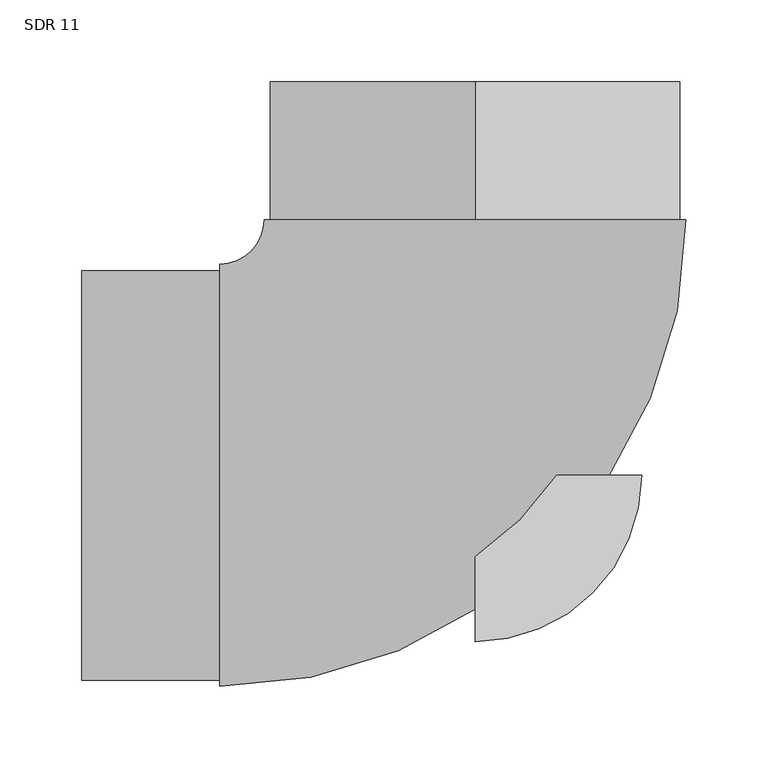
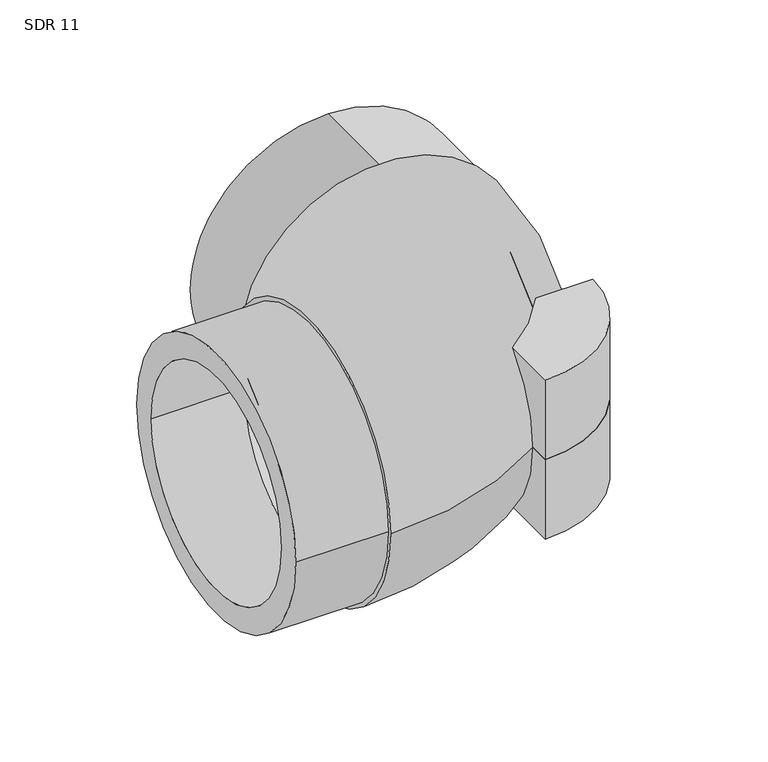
"""IFC4 building model written with IfcOpenShell, lengths in millimetres: pipe fitting geometry, Aquatherm - Elbow BW Molded : SDR 11."""

from ifc_helpers import new_model, si_unit, point, frame, frame_2d, origin, origin_with_axes, origin_2d, place, context, project, spatial, polyline, circle_curve, ellipse_curve, trimmed, segment, composite_curve, outline, extrude, source, transform, mapped, element, save
from ifc_brep_helpers import plane_surface, revolved_surface, advanced_brep


def sdr_11_d59b6b38(model_context):
    return source(origin(), model_context, "Body", "SolidModel", [
        extrude(outline(composite_curve([segment(polyline([(0.0, -101.6), (0.0, 0.0), (101.5999999, 0.0049065)]), True, "CONTINUOUS"), segment(trimmed(circle_curve(origin_2d(), 101.6), [point((101.5999999, 0.0049065))], [point((0.0, -101.6))], False, "CARTESIAN"), True, "CONTINUOUS")], self_intersect=False)), frame((0.0, 0.0, -76.2), z_axis=(0.0, 0.0, 1.0), x_axis=(1.0, 0.0, 0.0)), (0.0, 0.0, 1.0), 76.2),
        extrude(outline(composite_curve([segment(trimmed(circle_curve(origin_2d(), 101.6), [point((101.5999999, 0.0049065))], [point((0.0, -101.6))], False, "CARTESIAN"), True, "CONTINUOUS"), segment(polyline([(0.0, -101.6), (0.0, 0.0), (101.5999999, 0.0049065)]), True, "CONTINUOUS")], self_intersect=False)), origin_with_axes(), (0.0, 0.0, 1.0), 76.2),
        extrude(outline(composite_curve([segment(trimmed(circle_curve(frame_2d((0.0, -124.968)), 124.968), [point((0.0, -249.936))], [point((0.0, 0.0))], False, "CARTESIAN"), True, "CONTINUOUS"), segment(trimmed(circle_curve(frame_2d((0.0, -124.968)), 124.968), [point((0.0, 0.0))], [point((0.0, -249.936))], False, "CARTESIAN"), True, "CONTINUOUS")], self_intersect=False), holes=[composite_curve([segment(trimmed(circle_curve(frame_2d((0.0, -124.968)), 102.2465455), [point((0.0, -227.2145455))], [point((0.0, -22.7214545))], True, "CARTESIAN"), True, "CONTINUOUS"), segment(trimmed(circle_curve(frame_2d((0.0, -124.968)), 102.2465455), [point((0.0, -22.7214545))], [point((0.0, -227.2145455))], True, "CARTESIAN"), True, "CONTINUOUS")], self_intersect=False)]), frame((-0.0075345, 156.0194998, 124.968), z_axis=(-4.829227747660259e-05, 0.999999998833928, 0.0), x_axis=(-0.999999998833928, -4.829227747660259e-05, 0.0)), (0.0, 0.0, 1.0), 84.0105),
        extrude(outline(composite_curve([segment(trimmed(circle_curve(frame_2d((-0.1496481, 0.0)), 124.968), [point((124.8183519, 0.0))], [point((-125.1176481, 0.0))], False, "CARTESIAN"), True, "CONTINUOUS"), segment(trimmed(circle_curve(frame_2d((-0.1496481, 0.0)), 124.968), [point((-125.1176481, 0.0))], [point((124.8183519, 0.0))], False, "CARTESIAN"), True, "CONTINUOUS")], self_intersect=False), holes=[composite_curve([segment(trimmed(circle_curve(origin_2d(), 102.2465455), [point((102.2465455, 0.0))], [point((-102.2465455, 0.0))], True, "CARTESIAN"), True, "CONTINUOUS"), segment(trimmed(circle_curve(origin_2d(), 102.2465455), [point((-102.2465455, 0.0))], [point((102.2465455, 0.0))], True, "CARTESIAN"), True, "CONTINUOUS")], self_intersect=False)]), frame((-240.03, 0.0, 0.0), z_axis=(1.0, 0.0, 0.0), x_axis=(0.0, 1.0, 0.0)), (0.0, 0.0, 1.0), 84.0105),
        advanced_brep(
        [(-156.0195, -128.71704, 0.0), (-156.0195, 128.71704, 0.0), (-156.0195, -102.2465455, 0.0), (-156.0195, 102.2465455, 0.0), (128.7095053, 156.0257159, 0.0), (-128.7245744, 156.0132838, 0.0), (102.2390108, 156.0244375, 0.0), (-102.2540799, 156.0145621, 0.0)],
        [
            (0, 1, circle_curve(frame((-156.0195, 0.0, 0.0), z_axis=(-1.0, 0.0, 0.0), x_axis=(0.0, 1.0, 0.0)), 128.71704)),
            (1, 0, circle_curve(frame((-156.0195, 0.0, 0.0), z_axis=(-1.0, 0.0, 0.0), x_axis=(0.0, 1.0, 0.0)), 128.71704)),
            (2, 3, circle_curve(frame((-156.0195, 0.0, 0.0), z_axis=(1.0, 0.0, 0.0), x_axis=(0.0, 1.0, 0.0)), 102.2465455)),
            (3, 2, circle_curve(frame((-156.0195, 0.0, 0.0), z_axis=(1.0, 0.0, 0.0), x_axis=(0.0, 1.0, 0.0)), 102.2465455)),
            (4, 5, circle_curve(frame((-0.0075345, 156.0194998, 0.0), z_axis=(-4.8292277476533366e-05, 0.999999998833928, 0.0), x_axis=(-0.999999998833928, -4.8292277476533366e-05, 0.0)), 128.71704)),
            (5, 4, circle_curve(frame((-0.0075345, 156.0194998, 0.0), z_axis=(-4.8292277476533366e-05, 0.999999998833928, 0.0), x_axis=(-0.999999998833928, -4.8292277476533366e-05, 0.0)), 128.71704)),
            (6, 7, circle_curve(frame((-0.0075345, 156.0194998, 0.0), z_axis=(4.8292277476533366e-05, -0.999999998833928, 0.0), x_axis=(-0.999999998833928, -4.8292277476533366e-05, 0.0)), 102.2465455)),
            (7, 6, circle_curve(frame((-0.0075345, 156.0194998, 0.0), z_axis=(4.8292277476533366e-05, -0.999999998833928, 0.0), x_axis=(-0.999999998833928, -4.8292277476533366e-05, 0.0)), 102.2465455)),
            (5, 1, circle_curve(frame((-156.0195, 156.0119656, 0.0), z_axis=(0.0, 0.0, -1.0), x_axis=(0.0, -1.0, 0.0)), 27.2949256)),
            (0, 4, circle_curve(frame((-156.0195, 156.0119656, 0.0), z_axis=(0.0, 0.0, 1.0), x_axis=(0.0, -1.0, 0.0)), 284.7290056)),
            (7, 3, circle_curve(frame((-156.0195, 156.0119656, 0.0), z_axis=(0.0, 0.0, -1.0), x_axis=(0.0, -1.0, 0.0)), 53.7654202)),
            (2, 6, circle_curve(frame((-156.0195, 156.0119656, 0.0), z_axis=(0.0, 0.0, 1.0), x_axis=(0.0, -1.0, 0.0)), 258.2585111)),
        ],
        [
            plane_surface(frame((-156.0195, 0.0, 0.0), z_axis=(-1.0, 0.0, 0.0), x_axis=(0.0, 0.0, 1.0))),
            plane_surface(frame((-0.0075345, 156.0194998, 0.0), z_axis=(-4.829227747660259e-05, 0.999999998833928, 0.0), x_axis=(0.0, 0.0, 1.0))),
            revolved_surface(trimmed(ellipse_curve(frame((-156.0195, 0.0, 0.0), z_axis=(-1.0, 0.0, 0.0), x_axis=(0.0, 1.0, 0.0)), 128.71704, 128.71704), [point((-156.0195, -128.71704, 0.0))], [point((-156.0195, 128.71704, 0.0))], True, "CARTESIAN"), (-156.0195, 156.0119656, 0.0), (0.0, 0.0, 1.0)),
            revolved_surface(trimmed(ellipse_curve(frame((-156.0195, 0.0, 0.0), z_axis=(-1.0, 0.0, 0.0), x_axis=(0.0, 1.0, 0.0)), 128.71704, 128.71704), [point((-156.0195, 128.71704, 0.0))], [point((-156.0195, -128.71704, 0.0))], True, "CARTESIAN"), (-156.0195, 156.0119656, 0.0), (0.0, 0.0, 1.0)),
            revolved_surface(trimmed(ellipse_curve(frame((-156.0195, 0.0, 0.0), z_axis=(1.0, 0.0, 0.0), x_axis=(0.0, 1.0, 0.0)), 102.2465455, 102.2465455), [point((-156.0195, -102.2465455, 0.0))], [point((-156.0195, 102.2465455, 0.0))], True, "CARTESIAN"), (-156.0195, 156.0119656, 0.0), (0.0, 0.0, 1.0)),
            revolved_surface(trimmed(ellipse_curve(frame((-156.0195, 0.0, 0.0), z_axis=(1.0, 0.0, 0.0), x_axis=(0.0, 1.0, 0.0)), 102.2465455, 102.2465455), [point((-156.0195, 102.2465455, 0.0))], [point((-156.0195, -102.2465455, 0.0))], True, "CARTESIAN"), (-156.0195, 156.0119656, 0.0), (0.0, 0.0, 1.0)),
        ],
        [
            (0, [[1, 2], [3, 4]]),
            (1, [[5, 6], [7, 8]]),
            (2, [[9, -1, 10, -6]]),
            (3, [[-10, -2, -9, -5]]),
            (4, [[11, -3, 12, -8]]),
            (5, [[-12, -4, -11, -7]]),
        ],
    ),
    ])


if __name__ == "__main__":
    model = new_model("IFC4")
    model_context = context("Model", 3, world=origin())
    ifc_project = project(units=[si_unit("LENGTHUNIT", "METRE", prefix="MILLI")], contexts=[model_context])
    site = spatial("IfcSite", under=ifc_project)
    building = spatial("IfcBuilding", under=site)
    placement = place(None, origin())
    sdr_11_shape = sdr_11_d59b6b38(model_context)
    element("IfcPipeFitting", 1, ObjectType="Aquatherm - Elbow BW Molded : SDR 11", at=placement, inside=building, context=model_context, shape_type="MappedRepresentation", body=[
        mapped(sdr_11_shape, transform((0.0, 0.0, 0.0), x_axis=(1.0, 0.0, 0.0), y_axis=(0.0, 1.0, 0.0), z_axis=(0.0, 0.0, 1.0))),
    ])
    save(model, "model.ifc")
